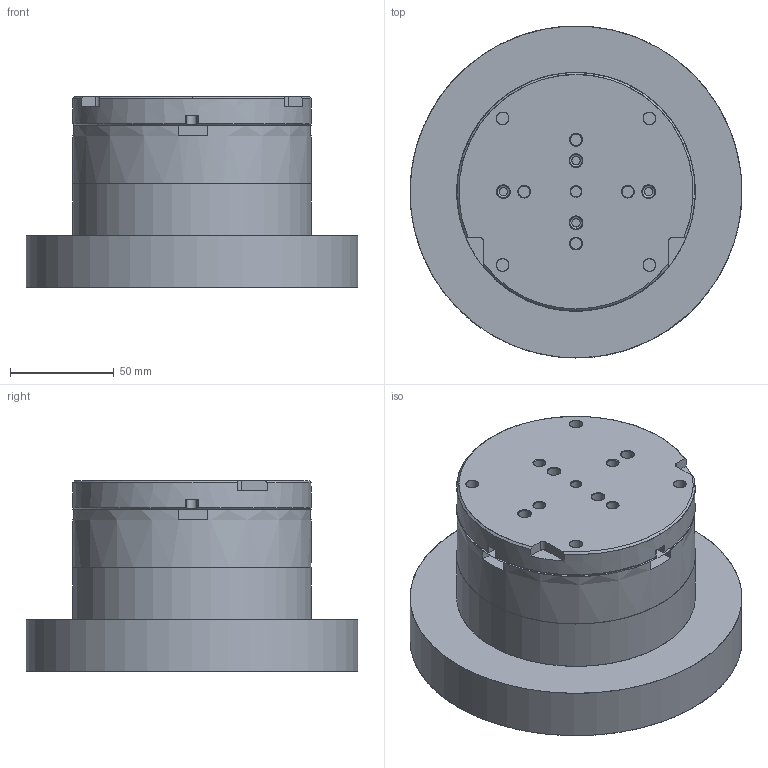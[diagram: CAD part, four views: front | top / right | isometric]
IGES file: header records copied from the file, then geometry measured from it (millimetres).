
Start section: Iges File created by ES
Global section: native system: ES; preprocessor: IGES.4B00; organization: JingDiao; units: millimetre
Bounding box: 160 x 160 x 92 mm (x, y, z)
Surface area: 144777.1 mm2 (no closed solid volume)
Topology: 0 solids, 0 shells, 155 faces, 6585 edges, 6527 vertices
Faces by surface type: revolution 94, bspline 61
